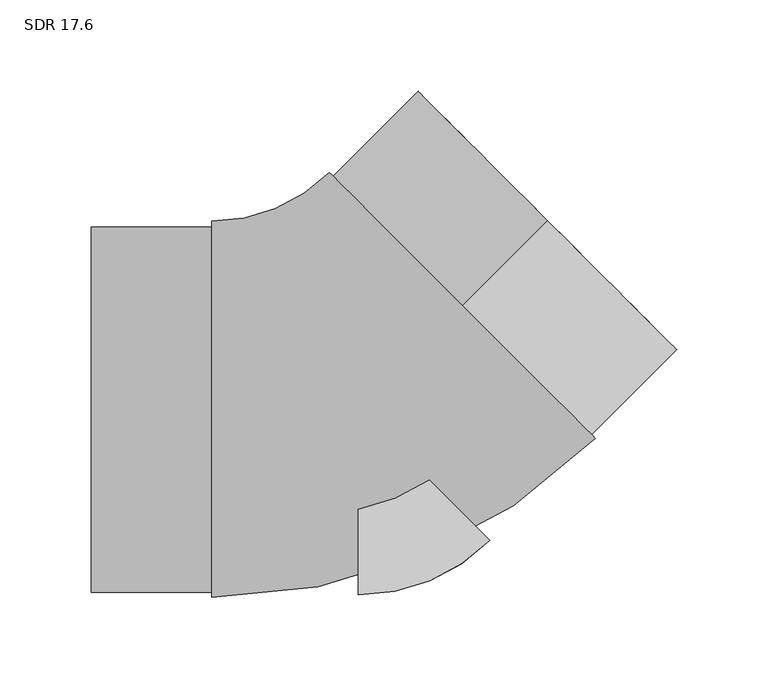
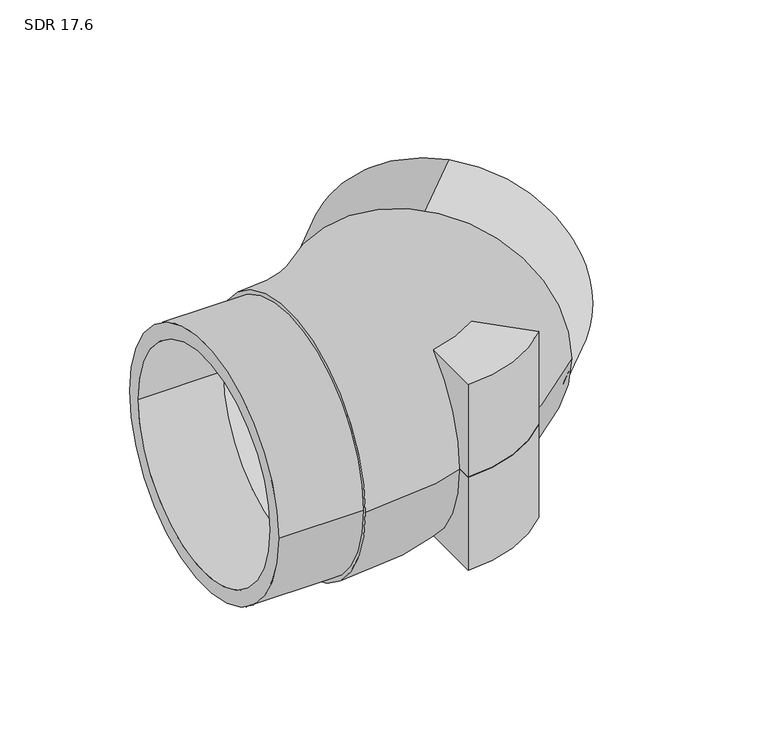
"""IFC4 building model written with IfcOpenShell, lengths in millimetres: pipe fitting geometry, Aquatherm - Elbow BW Molded : SDR 17.6."""

from ifc_helpers import new_model, si_unit, point, frame, frame_2d, origin, origin_with_axes, origin_2d, place, context, project, spatial, polyline, circle_curve, ellipse_curve, trimmed, segment, composite_curve, outline, extrude, source, transform, mapped, element, save
from ifc_brep_helpers import plane_surface, revolved_surface, advanced_brep


def sdr_17_6_5922251a(model_context):
    return source(origin(), model_context, "Body", "SolidModel", [
        extrude(outline(composite_curve([segment(polyline([(0.0, -101.6), (0.0, 0.0), (71.8491057, -71.8349915)]), True, "CONTINUOUS"), segment(trimmed(circle_curve(origin_2d(), 101.6), [point((71.8491057, -71.8349915))], [point((0.0, -101.6))], False, "CARTESIAN"), True, "CONTINUOUS")], self_intersect=False)), frame((0.0, 0.0, -76.2), z_axis=(0.0, 0.0, 1.0), x_axis=(1.0, 0.0, 0.0)), (0.0, 0.0, 1.0), 76.2),
        extrude(outline(composite_curve([segment(trimmed(circle_curve(origin_2d(), 101.6), [point((71.8491057, -71.8349915))], [point((0.0, -101.6))], False, "CARTESIAN"), True, "CONTINUOUS"), segment(polyline([(0.0, -101.6), (0.0, 0.0), (71.8491057, -71.8349915)]), True, "CONTINUOUS")], self_intersect=False)), origin_with_axes(), (0.0, 0.0, 1.0), 76.2),
        extrude(outline(composite_curve([segment(trimmed(circle_curve(frame_2d((0.0, -99.949)), 99.949), [point((0.0, -199.898))], [point((0.0, 0.0))], False, "CARTESIAN"), True, "CONTINUOUS"), segment(trimmed(circle_curve(frame_2d((0.0, -99.949)), 99.949), [point((0.0, 0.0))], [point((0.0, -199.898))], False, "CARTESIAN"), True, "CONTINUOUS")], self_intersect=False), holes=[composite_curve([segment(trimmed(circle_curve(frame_2d((0.0, -99.949)), 88.1902941), [point((0.0, -188.1392941))], [point((0.0, -11.7587059))], True, "CARTESIAN"), True, "CONTINUOUS"), segment(trimmed(circle_curve(frame_2d((0.0, -99.949)), 88.1902941), [point((0.0, -11.7587059))], [point((0.0, -188.1392941))], True, "CARTESIAN"), True, "CONTINUOUS")], self_intersect=False)]), frame((56.7945402, 56.8056992, 99.949), z_axis=(0.707037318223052, 0.7071762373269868, 0.0), x_axis=(-0.7071762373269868, 0.707037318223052, 0.0)), (0.0, 0.0, 1.0), 65.7225),
        extrude(outline(composite_curve([segment(trimmed(circle_curve(frame_2d((-0.1496481, 0.0)), 99.949), [point((99.7993519, 0.0))], [point((-100.0986481, 0.0))], False, "CARTESIAN"), True, "CONTINUOUS"), segment(trimmed(circle_curve(frame_2d((-0.1496481, 0.0)), 99.949), [point((-100.0986481, 0.0))], [point((99.7993519, 0.0))], False, "CARTESIAN"), True, "CONTINUOUS")], self_intersect=False), holes=[composite_curve([segment(trimmed(circle_curve(origin_2d(), 88.1902941), [point((88.1902941, 0.0))], [point((-88.1902941, 0.0))], True, "CARTESIAN"), True, "CONTINUOUS"), segment(trimmed(circle_curve(origin_2d(), 88.1902941), [point((-88.1902941, 0.0))], [point((88.1902941, 0.0))], True, "CARTESIAN"), True, "CONTINUOUS")], self_intersect=False)]), frame((-146.05, 0.0, 0.0), z_axis=(1.0, 0.0, 0.0), x_axis=(0.0, 1.0, 0.0)), (0.0, 0.0, 1.0), 65.7225),
        advanced_brep(
        [(-80.3275, -102.94747, 0.0), (-80.3275, 102.94747, 0.0), (-80.3275, -88.1902941, 0.0), (-80.3275, 88.1902941, 0.0), (129.5965447, -15.9820039, 0.0), (-16.0074643, 129.5934023, 0.0), (119.1606205, -5.5481298, 0.0), (-5.5715402, 119.1595283, 0.0)],
        [
            (0, 1, circle_curve(frame((-80.3275, 0.0, 0.0), z_axis=(-1.0, 0.0, 0.0), x_axis=(0.0, 1.0, 0.0)), 102.94747)),
            (1, 0, circle_curve(frame((-80.3275, 0.0, 0.0), z_axis=(-1.0, 0.0, 0.0), x_axis=(0.0, 1.0, 0.0)), 102.94747)),
            (2, 3, circle_curve(frame((-80.3275, 0.0, 0.0), z_axis=(1.0, 0.0, 0.0), x_axis=(0.0, 1.0, 0.0)), 88.1902941)),
            (3, 2, circle_curve(frame((-80.3275, 0.0, 0.0), z_axis=(1.0, 0.0, 0.0), x_axis=(0.0, 1.0, 0.0)), 88.1902941)),
            (4, 5, circle_curve(frame((56.7945402, 56.8056992, 0.0), z_axis=(0.7070373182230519, 0.7071762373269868, 0.0), x_axis=(-0.7071762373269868, 0.7070373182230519, 0.0)), 102.94747)),
            (5, 4, circle_curve(frame((56.7945402, 56.8056992, 0.0), z_axis=(0.7070373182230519, 0.7071762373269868, 0.0), x_axis=(-0.7071762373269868, 0.7070373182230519, 0.0)), 102.94747)),
            (6, 7, circle_curve(frame((56.7945402, 56.8056992, 0.0), z_axis=(-0.7070373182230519, -0.7071762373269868, 0.0), x_axis=(-0.7071762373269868, 0.7070373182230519, 0.0)), 88.1902941)),
            (7, 6, circle_curve(frame((56.7945402, 56.8056992, 0.0), z_axis=(-0.7070373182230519, -0.7071762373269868, 0.0), x_axis=(-0.7071762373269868, 0.7070373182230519, 0.0)), 88.1902941)),
            (5, 1, circle_curve(frame((-80.3275, 193.9008029, 0.0), z_axis=(0.0, 0.0, -1.0), x_axis=(0.0, -1.0, 0.0)), 90.9533329)),
            (0, 4, circle_curve(frame((-80.3275, 193.9008029, 0.0), z_axis=(0.0, 0.0, 1.0), x_axis=(0.0, -1.0, 0.0)), 296.8482729)),
            (7, 3, circle_curve(frame((-80.3275, 193.9008029, 0.0), z_axis=(0.0, 0.0, -1.0), x_axis=(0.0, -1.0, 0.0)), 105.7105087)),
            (2, 6, circle_curve(frame((-80.3275, 193.9008029, 0.0), z_axis=(0.0, 0.0, 1.0), x_axis=(0.0, -1.0, 0.0)), 282.091097)),
        ],
        [
            plane_surface(frame((-80.3275, 0.0, 0.0), z_axis=(-1.0, 0.0, 0.0), x_axis=(0.0, 0.0, 1.0))),
            plane_surface(frame((56.7945402, 56.8056992, 0.0), z_axis=(0.707037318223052, 0.7071762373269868, 0.0), x_axis=(0.0, 0.0, 1.0))),
            revolved_surface(trimmed(ellipse_curve(frame((-80.3275, 0.0, 0.0), z_axis=(-1.0, 0.0, 0.0), x_axis=(0.0, 1.0, 0.0)), 102.94747, 102.94747), [point((-80.3275, -102.94747, 0.0))], [point((-80.3275, 102.94747, 0.0))], True, "CARTESIAN"), (-80.3275, 193.9008029, 0.0), (0.0, 0.0, 1.0)),
            revolved_surface(trimmed(ellipse_curve(frame((-80.3275, 0.0, 0.0), z_axis=(-1.0, 0.0, 0.0), x_axis=(0.0, 1.0, 0.0)), 102.94747, 102.94747), [point((-80.3275, 102.94747, 0.0))], [point((-80.3275, -102.94747, 0.0))], True, "CARTESIAN"), (-80.3275, 193.9008029, 0.0), (0.0, 0.0, 1.0)),
            revolved_surface(trimmed(ellipse_curve(frame((-80.3275, 0.0, 0.0), z_axis=(1.0, 0.0, 0.0), x_axis=(0.0, 1.0, 0.0)), 88.1902941, 88.1902941), [point((-80.3275, -88.1902941, 0.0))], [point((-80.3275, 88.1902941, 0.0))], True, "CARTESIAN"), (-80.3275, 193.9008029, 0.0), (0.0, 0.0, 1.0)),
            revolved_surface(trimmed(ellipse_curve(frame((-80.3275, 0.0, 0.0), z_axis=(1.0, 0.0, 0.0), x_axis=(0.0, 1.0, 0.0)), 88.1902941, 88.1902941), [point((-80.3275, 88.1902941, 0.0))], [point((-80.3275, -88.1902941, 0.0))], True, "CARTESIAN"), (-80.3275, 193.9008029, 0.0), (0.0, 0.0, 1.0)),
        ],
        [
            (0, [[1, 2], [3, 4]]),
            (1, [[5, 6], [7, 8]]),
            (2, [[9, -1, 10, -6]]),
            (3, [[-10, -2, -9, -5]]),
            (4, [[11, -3, 12, -8]]),
            (5, [[-12, -4, -11, -7]]),
        ],
    ),
    ])


if __name__ == "__main__":
    model = new_model("IFC4")
    model_context = context("Model", 3, world=origin())
    ifc_project = project(units=[si_unit("LENGTHUNIT", "METRE", prefix="MILLI")], contexts=[model_context])
    site = spatial("IfcSite", under=ifc_project)
    building = spatial("IfcBuilding", under=site)
    placement = place(None, origin())
    sdr_17_6_shape = sdr_17_6_5922251a(model_context)
    element("IfcPipeFitting", 1, ObjectType="Aquatherm - Elbow BW Molded : SDR 17.6", at=placement, inside=building, context=model_context, shape_type="MappedRepresentation", body=[
        mapped(sdr_17_6_shape, transform((0.0, 0.0, 0.0), x_axis=(1.0, 0.0, 0.0), y_axis=(0.0, 1.0, 0.0), z_axis=(0.0, 0.0, 1.0))),
    ])
    save(model, "model.ifc")
